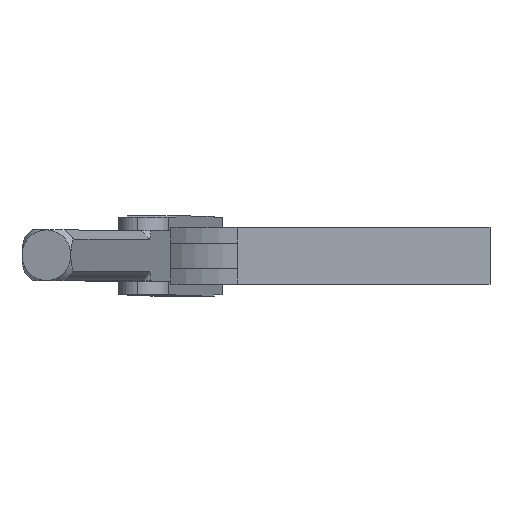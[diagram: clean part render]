
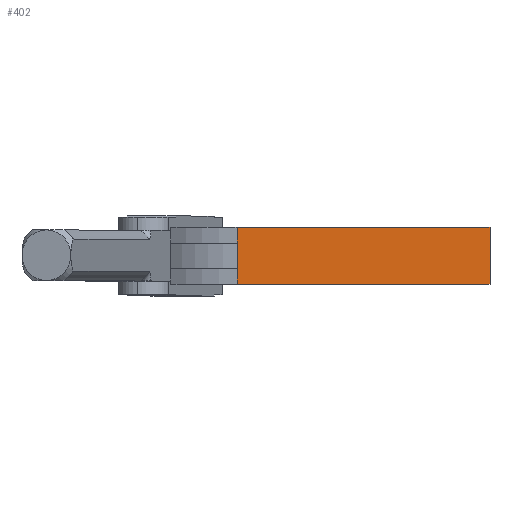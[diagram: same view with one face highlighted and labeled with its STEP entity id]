
A CAD part, top view. The second image highlights one B-rep face of the part: STEP entity #402.
In plain terms, the highlighted planar face has unit normal (0, 0, 1).
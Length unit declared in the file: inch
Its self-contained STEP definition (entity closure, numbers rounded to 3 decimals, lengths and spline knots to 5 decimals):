
#118=B_SPLINE_CURVE_WITH_KNOTS('',3,(#3901,#3902,#3903,#3904),.UNSPECIFIED.,
.F.,.F.,(4,4),(0.,1.),.UNSPECIFIED.);
#215=PLANE('',#2552);
#402=ADVANCED_FACE('',(#566),#215,.T.);
#566=FACE_OUTER_BOUND('',#730,.T.);
#730=EDGE_LOOP('',(#1329,#1330,#1331,#1332,#1333,#1334));
#1329=ORIENTED_EDGE('',*,*,#1941,.F.);
#1330=ORIENTED_EDGE('',*,*,#1875,.F.);
#1331=ORIENTED_EDGE('',*,*,#1940,.F.);
#1332=ORIENTED_EDGE('',*,*,#1937,.F.);
#1333=ORIENTED_EDGE('',*,*,#1935,.T.);
#1334=ORIENTED_EDGE('',*,*,#1942,.T.);
#1610=VERTEX_POINT('',#3736);
#1611=VERTEX_POINT('',#3740);
#1657=VERTEX_POINT('',#3890);
#1658=VERTEX_POINT('',#3892);
#1659=VERTEX_POINT('',#3896);
#1660=VERTEX_POINT('',#3907);
#1875=EDGE_CURVE('',#1610,#1611,#2107,.T.);
#1935=EDGE_CURVE('',#1658,#1657,#2148,.T.);
#1937=EDGE_CURVE('',#1658,#1659,#2149,.T.);
#1940=EDGE_CURVE('',#1659,#1610,#118,.T.);
#1941=EDGE_CURVE('',#1611,#1660,#2150,.T.);
#1942=EDGE_CURVE('',#1657,#1660,#2151,.T.);
#2107=LINE('',#3739,#2297);
#2148=LINE('',#3891,#2338);
#2149=LINE('',#3895,#2339);
#2150=LINE('',#3906,#2340);
#2151=LINE('',#3908,#2341);
#2297=VECTOR('',#2991,1.);
#2338=VECTOR('',#3088,1.);
#2339=VECTOR('',#3093,1.);
#2340=VECTOR('',#3104,1.);
#2341=VECTOR('',#3105,1.);
#2552=AXIS2_PLACEMENT_3D('',#3909,#3106,#3107);
#2991=DIRECTION('',(0.,1.,0.));
#3088=DIRECTION('',(1.,0.,0.));
#3093=DIRECTION('',(0.,1.,0.));
#3104=DIRECTION('',(1.,0.,0.));
#3105=DIRECTION('',(0.,1.,0.));
#3106=DIRECTION('',(0.,0.,1.));
#3107=DIRECTION('',(0.,-1.,0.));
#3736=CARTESIAN_POINT('',(1.50003,0.125,2.62527));
#3739=CARTESIAN_POINT('',(1.50001,0.125,2.62527));
#3740=CARTESIAN_POINT('',(1.50001,0.28125,2.62527));
#3890=CARTESIAN_POINT('',(3.99985,-0.28125,2.62527));
#3891=CARTESIAN_POINT('',(1.50001,-0.28125,2.62527));
#3892=CARTESIAN_POINT('',(1.50001,-0.28125,2.62527));
#3895=CARTESIAN_POINT('',(1.50001,-0.28125,2.62527));
#3896=CARTESIAN_POINT('',(1.50003,-0.125,2.62527));
#3901=CARTESIAN_POINT('',(1.50002,-0.125,2.62527));
#3902=CARTESIAN_POINT('',(1.50002,-0.04167,2.62527));
#3903=CARTESIAN_POINT('',(1.50002,0.04167,2.62527));
#3904=CARTESIAN_POINT('',(1.50002,0.125,2.62527));
#3906=CARTESIAN_POINT('',(1.50001,0.28125,2.62527));
#3907=CARTESIAN_POINT('',(3.99985,0.28125,2.62527));
#3908=CARTESIAN_POINT('',(3.99985,-0.28125,2.62527));
#3909=CARTESIAN_POINT('',(3.99985,0.125,2.62527));
